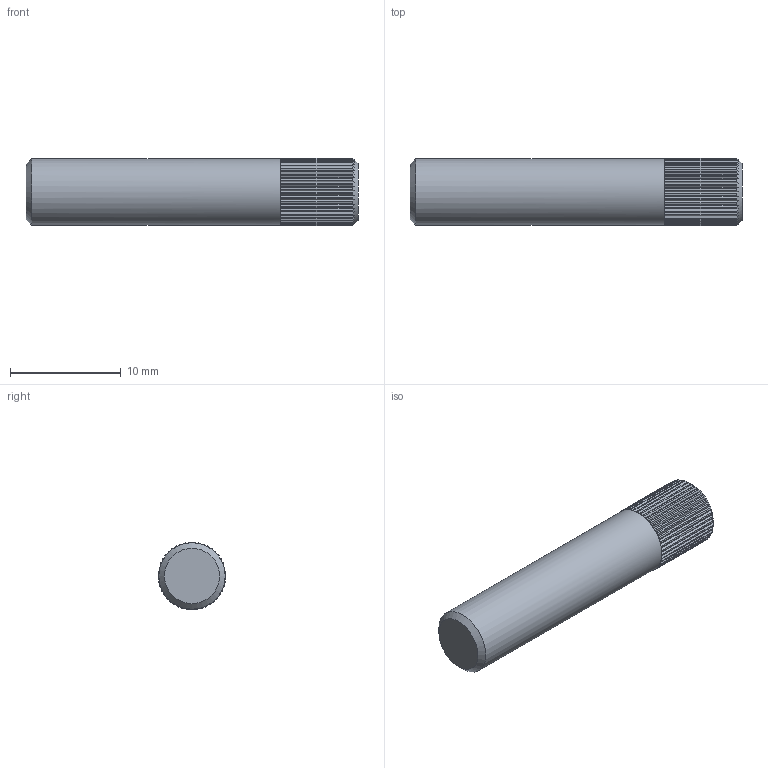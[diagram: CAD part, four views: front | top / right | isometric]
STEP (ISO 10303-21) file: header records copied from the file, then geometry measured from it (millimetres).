
FILE_DESCRIPTION (( 'STEP AP214' ), '1' );
FILE_NAME ('N30158.step', '2024-12-03T16:27:09', ( '' ), ( '' ), 'SwSTEP 2.0', 'SolidWorks 2023', '' );
FILE_SCHEMA (( 'AUTOMOTIVE_DESIGN' ));
Length unit declared in the file: millimetre
Products named in the file (1): N30158
Bounding box: 30 x 6.1 x 6.1 mm (x, y, z)
Volume: 843.9 mm3; surface area: 649.7 mm2
Topology: 1 solids, 1 shells, 230 faces, 593 edges, 365 vertices
Faces by surface type: plane 182, cylinder 46, cone 2
Full cylindrical faces by diameter (mm): 6 x1
Entity records: 6992 total; most frequent: CARTESIAN_POINT 1452, ORIENTED_EDGE 1176, DIRECTION 1143, EDGE_CURVE 588, AXIS2_PLACEMENT_3D 414, VERTEX_POINT 363, VECTOR 315, LINE 315
